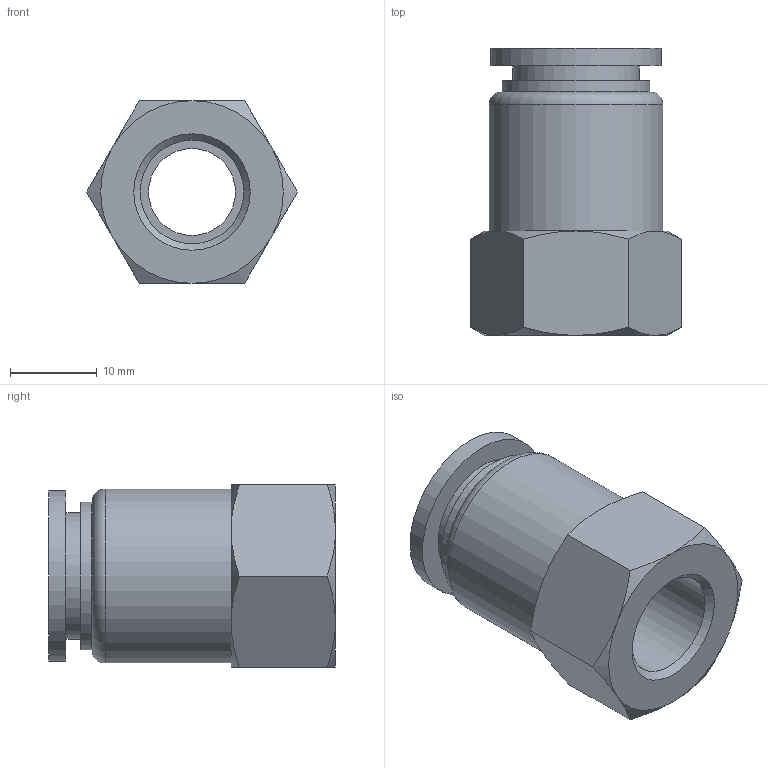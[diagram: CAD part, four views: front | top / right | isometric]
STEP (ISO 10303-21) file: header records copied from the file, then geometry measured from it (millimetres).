
FILE_DESCRIPTION(/* description */ (''),/* implementation_level */ '2;1');
FILE_NAME(/* name */ 'S:\_Tecnico\ArchivioUT\_Disegni3D ingombri\DISEGNI 3D per ingombri\RP\RP 52\RP521412.stp',/* time_stamp */ '2019-07-29T08:52:12+02:00',/* author */ ('ufficiotecnico3'),/* organization */ (''),/* preprocessor_version */ 'ST-DEVELOPER v18',/* originating_system */ 'Autodesk Inventor 2020',/* authorisation */ '');
FILE_SCHEMA (('AUTOMOTIVE_DESIGN { 1 0 10303 214 3 1 1 }'));
Length unit declared in the file: millimetre
Products named in the file (1): RP521412
Bounding box: 24.25 x 33 x 21 mm (x, y, z)
Volume: 7043.1 mm3; surface area: 4171.2 mm2
Topology: 1 solids, 1 shells, 34 faces, 82 edges, 55 vertices
Faces by surface type: cone 13, plane 13, cylinder 7, torus 1
Full cylindrical faces by diameter (mm): 10 x1, 11.89 x1, 12 x1, 14.5 x1, 17 x1, 19.6 x1, 20 x1
Entity records: 1039 total; most frequent: CARTESIAN_POINT 220, DIRECTION 172, ORIENTED_EDGE 164, EDGE_CURVE 82, AXIS2_PLACEMENT_3D 79, VERTEX_POINT 55, CIRCLE 44, EDGE_LOOP 41
